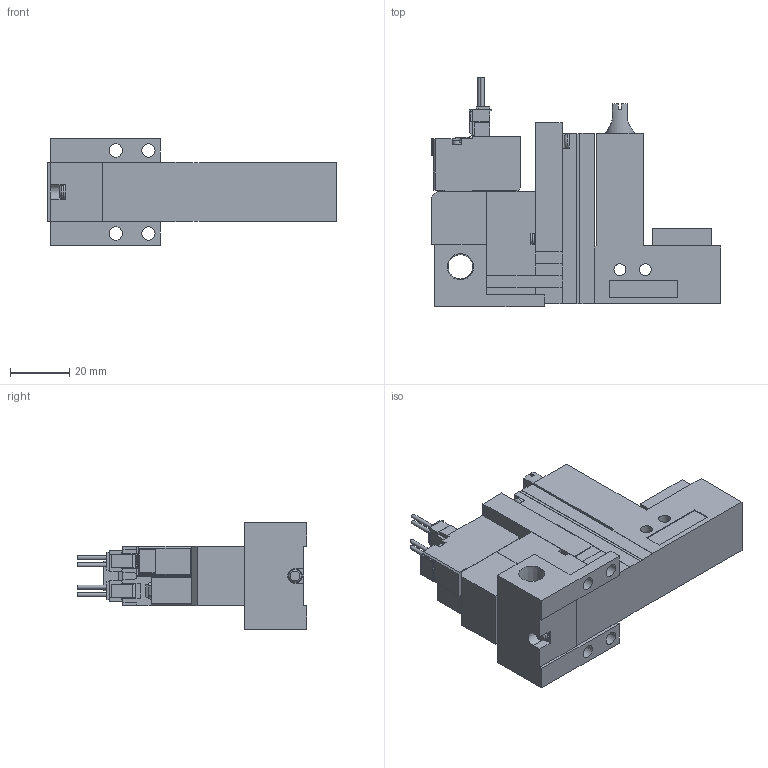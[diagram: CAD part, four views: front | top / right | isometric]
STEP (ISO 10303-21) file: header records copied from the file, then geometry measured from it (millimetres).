
FILE_DESCRIPTION(('STEP AP203'),'1');
FILE_NAME('ZLC5ALR101.stp','2025-02-18T05:17:43',(' '),(' '),'Spatial InterOp 3D',' ',' ');
FILE_SCHEMA(('CONFIG_CONTROL_DESIGN'));
Length unit declared in the file: millimetre
Products named in the file (5): BMC22M※※※※ZLC5ALR101; Solenoid valve A; Pressure sensor ZLC; Unit LC; Base MR10R
Assembly tree (4 placements, depth 2):
  BMC22M※※※※ZLC5ALR101
    Solenoid valve A
    Pressure sensor ZLC
    Unit LC
    Base MR10R
Bounding box: 97.6 x 77.45 x 36 mm (x, y, z)
Volume: 94805.3 mm3; surface area: 26595.8 mm2
Topology: 4 solids, 4 shells, 403 faces, 1095 edges, 719 vertices
Faces by surface type: plane 344, cylinder 45, cone 9, torus 5
Full cylindrical faces by diameter (mm): 1.4 x4, 2.5 x1, 3 x4, 3.5 x4, 3.6 x1, 4 x2, 4.134 x1, 4.5 x4, 5.2 x1, 6 x1, 6.6 x1, 8.279 x1
Entity records: 12626 total; most frequent: CARTESIAN_POINT 2343, ORIENTED_EDGE 2074, DIRECTION 1975, EDGE_CURVE 1037, LINE 901, VECTOR 901, VERTEX_POINT 704, AXIS2_PLACEMENT_3D 537
